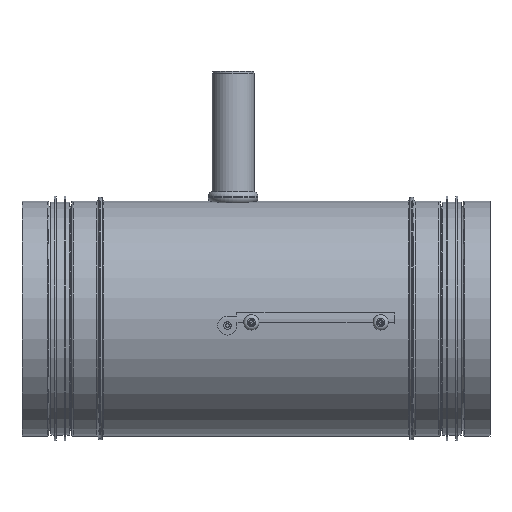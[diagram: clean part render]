
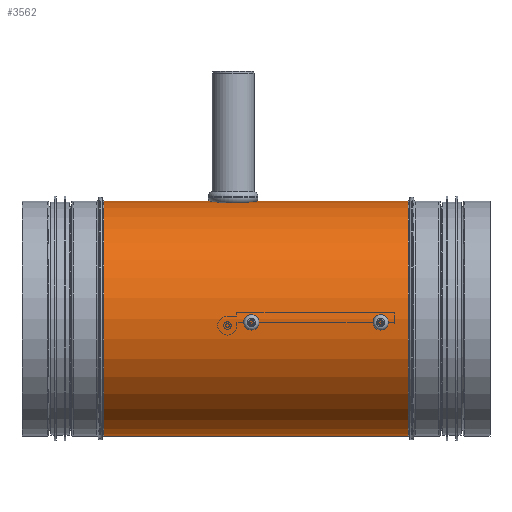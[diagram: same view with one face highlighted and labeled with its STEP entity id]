
A CAD part, left-side view. The second image highlights one B-rep face of the part: STEP entity #3562.
In plain terms, the highlighted cylindrical face has radius 61.5 mm (diameter 123 mm), a full revolution.
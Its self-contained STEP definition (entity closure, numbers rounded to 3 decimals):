
#104=CYLINDRICAL_SURFACE('',#4049,61.5);
#303=FACE_OUTER_BOUND('',#549,.T.);
#549=EDGE_LOOP('',(#2720,#2721,#2722,#2723));
#813=CIRCLE('',#4048,61.5);
#814=CIRCLE('',#4050,61.5);
#972=LINE('',#5683,#1232);
#1037=LINE('',#5878,#1297);
#1232=VECTOR('',#4420,10.);
#1297=VECTOR('',#4613,10.);
#1492=VERTEX_POINT('',#5676);
#1494=VERTEX_POINT('',#5682);
#1558=VERTEX_POINT('',#5871);
#1560=VERTEX_POINT('',#5877);
#1796=EDGE_CURVE('',#1494,#1492,#972,.T.);
#1893=EDGE_CURVE('',#1558,#1560,#1037,.T.);
#1996=EDGE_CURVE('',#1558,#1494,#813,.T.);
#1997=EDGE_CURVE('',#1560,#1492,#814,.T.);
#2720=ORIENTED_EDGE('',*,*,#1796,.T.);
#2721=ORIENTED_EDGE('',*,*,#1997,.F.);
#2722=ORIENTED_EDGE('',*,*,#1893,.F.);
#2723=ORIENTED_EDGE('',*,*,#1996,.T.);
#3562=ADVANCED_FACE('',(#303),#104,.T.);
#4048=AXIS2_PLACEMENT_3D('',#6081,#4911,#4912);
#4049=AXIS2_PLACEMENT_3D('',#6082,#4913,#4914);
#4050=AXIS2_PLACEMENT_3D('',#6083,#4915,#4916);
#4420=DIRECTION('',(0.,0.,-1.));
#4613=DIRECTION('',(0.,0.,-1.));
#4911=DIRECTION('center_axis',(0.,0.,-1.));
#4912=DIRECTION('ref_axis',(1.,0.,0.));
#4913=DIRECTION('center_axis',(0.,0.,-1.));
#4914=DIRECTION('ref_axis',(-1.,0.,0.));
#4915=DIRECTION('center_axis',(0.,0.,-1.));
#4916=DIRECTION('ref_axis',(1.,0.,0.));
#5676=CARTESIAN_POINT('',(61.5,0.011,-79.75));
#5682=CARTESIAN_POINT('',(61.5,0.011,79.75));
#5683=CARTESIAN_POINT('',(61.5,0.011,0.));
#5871=CARTESIAN_POINT('',(61.5,0.,79.75));
#5877=CARTESIAN_POINT('',(61.5,0.,-79.75));
#5878=CARTESIAN_POINT('',(61.5,0.,79.75));
#6081=CARTESIAN_POINT('Origin',(0.,0.,79.75));
#6082=CARTESIAN_POINT('Origin',(0.,0.,0.));
#6083=CARTESIAN_POINT('Origin',(0.,0.,-79.75));
